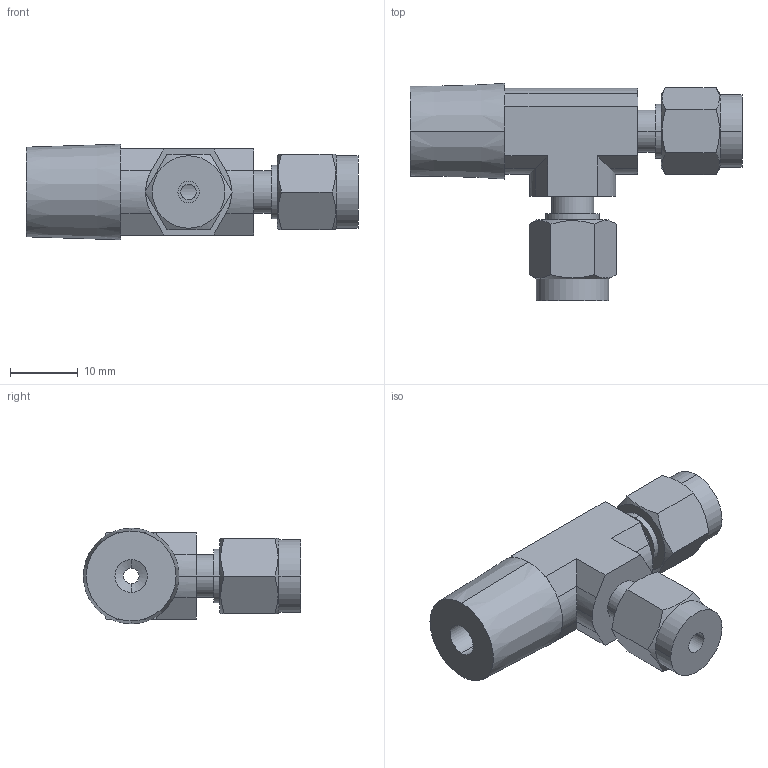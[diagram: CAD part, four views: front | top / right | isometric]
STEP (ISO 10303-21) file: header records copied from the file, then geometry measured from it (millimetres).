
FILE_DESCRIPTION (( 'STEP AP203' ), '1' );
FILE_NAME ('DTK 02-04 SS.STEP', '2009-09-08T10:02:57', ( ' ' ), ( '' ), 'SwSTEP 2.0', 'SolidWorks 2008', '' );
FILE_SCHEMA (( 'CONFIG_CONTROL_DESIGN' ));
Length unit declared in the file: millimetre
Products named in the file (1): DTK 02-04 SS
Bounding box: 49 x 32.06 x 14.12 mm (x, y, z)
Volume: 7150.7 mm3; surface area: 4021.2 mm2
Topology: 1 solids, 1 shells, 83 faces, 201 edges, 128 vertices
Faces by surface type: plane 43, cylinder 28, cone 12
Entity records: 2697 total; most frequent: CARTESIAN_POINT 684, ORIENTED_EDGE 402, DIRECTION 399, EDGE_CURVE 201, AXIS2_PLACEMENT_3D 151, VERTEX_POINT 128, VECTOR 97, LINE 97
